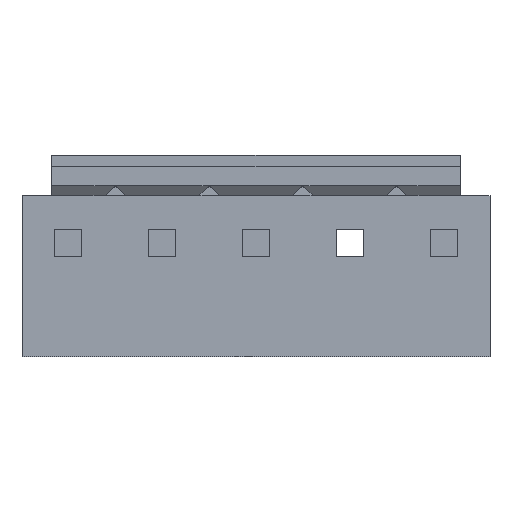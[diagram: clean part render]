
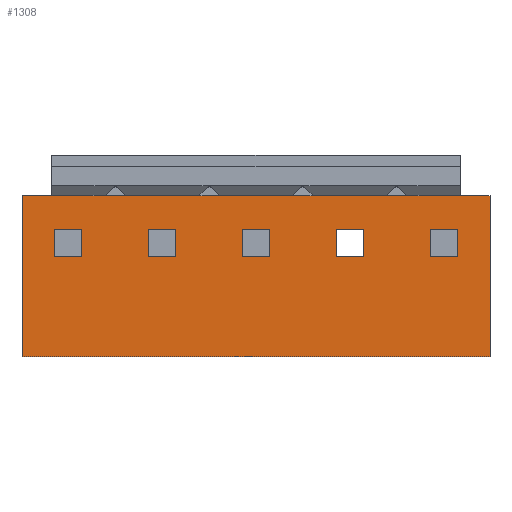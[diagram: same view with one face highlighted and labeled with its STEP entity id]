
A CAD part, top view. The second image highlights one B-rep face of the part: STEP entity #1308.
In plain terms, the highlighted planar face has unit normal (0, 0, 1).
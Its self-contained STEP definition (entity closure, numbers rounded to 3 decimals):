
#182=DIRECTION('',(1.,0.,0.));
#183=VECTOR('',#182,1.25);
#184=CARTESIAN_POINT('',(8.62,2.,0.));
#185=LINE('',#184,#183);
#186=DIRECTION('',(1.,0.,0.));
#187=VECTOR('',#186,1.25);
#188=CARTESIAN_POINT('',(-9.87,2.,0.));
#189=LINE('',#188,#187);
#190=DIRECTION('',(0.,1.,0.));
#191=VECTOR('',#190,1.14);
#192=CARTESIAN_POINT('',(-8.49,-0.57,0.));
#193=LINE('',#192,#191);
#194=DIRECTION('',(1.,0.,0.));
#195=VECTOR('',#194,1.14);
#196=CARTESIAN_POINT('',(-8.49,-0.57,0.));
#197=LINE('',#196,#195);
#198=DIRECTION('',(0.,1.,0.));
#199=VECTOR('',#198,1.14);
#200=CARTESIAN_POINT('',(-7.35,-0.57,0.));
#201=LINE('',#200,#199);
#202=DIRECTION('',(1.,0.,0.));
#203=VECTOR('',#202,1.14);
#204=CARTESIAN_POINT('',(-8.49,0.57,0.));
#205=LINE('',#204,#203);
#206=DIRECTION('',(0.,1.,0.));
#207=VECTOR('',#206,1.14);
#208=CARTESIAN_POINT('',(-4.53,-0.57,0.));
#209=LINE('',#208,#207);
#210=DIRECTION('',(1.,0.,0.));
#211=VECTOR('',#210,1.14);
#212=CARTESIAN_POINT('',(-4.53,-0.57,0.));
#213=LINE('',#212,#211);
#214=DIRECTION('',(0.,1.,0.));
#215=VECTOR('',#214,1.14);
#216=CARTESIAN_POINT('',(-3.39,-0.57,0.));
#217=LINE('',#216,#215);
#218=DIRECTION('',(1.,0.,0.));
#219=VECTOR('',#218,1.14);
#220=CARTESIAN_POINT('',(-4.53,0.57,0.));
#221=LINE('',#220,#219);
#222=DIRECTION('',(0.,1.,0.));
#223=VECTOR('',#222,1.14);
#224=CARTESIAN_POINT('',(-0.57,-0.57,0.));
#225=LINE('',#224,#223);
#226=DIRECTION('',(1.,0.,0.));
#227=VECTOR('',#226,1.14);
#228=CARTESIAN_POINT('',(-0.57,-0.57,0.));
#229=LINE('',#228,#227);
#230=DIRECTION('',(0.,1.,0.));
#231=VECTOR('',#230,1.14);
#232=CARTESIAN_POINT('',(0.57,-0.57,0.));
#233=LINE('',#232,#231);
#234=DIRECTION('',(1.,0.,0.));
#235=VECTOR('',#234,1.14);
#236=CARTESIAN_POINT('',(-0.57,0.57,0.));
#237=LINE('',#236,#235);
#238=DIRECTION('',(0.,1.,0.));
#239=VECTOR('',#238,1.14);
#240=CARTESIAN_POINT('',(7.35,-0.57,0.));
#241=LINE('',#240,#239);
#242=DIRECTION('',(1.,0.,0.));
#243=VECTOR('',#242,1.14);
#244=CARTESIAN_POINT('',(7.35,-0.57,0.));
#245=LINE('',#244,#243);
#246=DIRECTION('',(0.,1.,0.));
#247=VECTOR('',#246,1.14);
#248=CARTESIAN_POINT('',(8.49,-0.57,0.));
#249=LINE('',#248,#247);
#250=DIRECTION('',(1.,0.,0.));
#251=VECTOR('',#250,1.14);
#252=CARTESIAN_POINT('',(7.35,0.57,0.));
#253=LINE('',#252,#251);
#254=DIRECTION('',(1.,0.,0.));
#255=VECTOR('',#254,1.14);
#256=CARTESIAN_POINT('',(3.39,-0.57,0.));
#257=LINE('',#256,#255);
#258=DIRECTION('',(0.,1.,0.));
#259=VECTOR('',#258,1.14);
#260=CARTESIAN_POINT('',(4.53,-0.57,0.));
#261=LINE('',#260,#259);
#262=DIRECTION('',(1.,0.,0.));
#263=VECTOR('',#262,1.14);
#264=CARTESIAN_POINT('',(3.39,0.57,0.));
#265=LINE('',#264,#263);
#266=DIRECTION('',(0.,1.,0.));
#267=VECTOR('',#266,1.14);
#268=CARTESIAN_POINT('',(3.39,-0.57,0.));
#269=LINE('',#268,#267);
#270=DIRECTION('',(1.,0.,0.));
#271=VECTOR('',#270,17.24);
#272=CARTESIAN_POINT('',(-8.62,2.,0.));
#273=LINE('',#272,#271);
#598=DIRECTION('',(0.,1.,0.));
#599=VECTOR('',#598,6.8);
#600=CARTESIAN_POINT('',(-9.87,-4.8,0.));
#601=LINE('',#600,#599);
#618=DIRECTION('',(1.,0.,0.));
#619=VECTOR('',#618,19.74);
#620=CARTESIAN_POINT('',(-9.87,-4.8,0.));
#621=LINE('',#620,#619);
#642=DIRECTION('',(0.,1.,0.));
#643=VECTOR('',#642,6.8);
#644=CARTESIAN_POINT('',(9.87,-4.8,0.));
#645=LINE('',#644,#643);
#958=CARTESIAN_POINT('',(9.87,2.,0.));
#960=VERTEX_POINT('',#958);
#962=CARTESIAN_POINT('',(9.87,-4.8,0.));
#963=VERTEX_POINT('',#962);
#970=CARTESIAN_POINT('',(-9.87,2.,0.));
#972=VERTEX_POINT('',#970);
#974=CARTESIAN_POINT('',(-9.87,-4.8,0.));
#975=VERTEX_POINT('',#974);
#983=CARTESIAN_POINT('',(-8.62,2.,0.));
#985=VERTEX_POINT('',#983);
#987=CARTESIAN_POINT('',(8.62,2.,0.));
#989=VERTEX_POINT('',#987);
#1006=CARTESIAN_POINT('',(-8.49,-0.57,0.));
#1007=CARTESIAN_POINT('',(-8.49,0.57,0.));
#1008=VERTEX_POINT('',#1006);
#1009=VERTEX_POINT('',#1007);
#1010=CARTESIAN_POINT('',(-7.35,-0.57,0.));
#1011=CARTESIAN_POINT('',(-7.35,0.57,0.));
#1012=VERTEX_POINT('',#1010);
#1013=VERTEX_POINT('',#1011);
#1038=CARTESIAN_POINT('',(-4.53,-0.57,0.));
#1039=CARTESIAN_POINT('',(-4.53,0.57,0.));
#1040=VERTEX_POINT('',#1038);
#1041=VERTEX_POINT('',#1039);
#1042=CARTESIAN_POINT('',(-3.39,-0.57,0.));
#1043=CARTESIAN_POINT('',(-3.39,0.57,0.));
#1044=VERTEX_POINT('',#1042);
#1045=VERTEX_POINT('',#1043);
#1070=CARTESIAN_POINT('',(-0.57,-0.57,0.));
#1071=CARTESIAN_POINT('',(-0.57,0.57,0.));
#1072=VERTEX_POINT('',#1070);
#1073=VERTEX_POINT('',#1071);
#1074=CARTESIAN_POINT('',(0.57,-0.57,0.));
#1075=CARTESIAN_POINT('',(0.57,0.57,0.));
#1076=VERTEX_POINT('',#1074);
#1077=VERTEX_POINT('',#1075);
#1110=CARTESIAN_POINT('',(3.39,-0.57,0.));
#1111=CARTESIAN_POINT('',(4.53,-0.57,0.));
#1112=VERTEX_POINT('',#1110);
#1113=VERTEX_POINT('',#1111);
#1114=CARTESIAN_POINT('',(3.39,0.57,0.));
#1115=CARTESIAN_POINT('',(4.53,0.57,0.));
#1116=VERTEX_POINT('',#1114);
#1117=VERTEX_POINT('',#1115);
#1166=CARTESIAN_POINT('',(7.35,-0.57,0.));
#1167=CARTESIAN_POINT('',(7.35,0.57,0.));
#1168=VERTEX_POINT('',#1166);
#1169=VERTEX_POINT('',#1167);
#1170=CARTESIAN_POINT('',(8.49,-0.57,0.));
#1171=CARTESIAN_POINT('',(8.49,0.57,0.));
#1172=VERTEX_POINT('',#1170);
#1173=VERTEX_POINT('',#1171);
#1241=CARTESIAN_POINT('',(9.87,2.,0.));
#1242=DIRECTION('',(0.,0.,1.));
#1243=DIRECTION('',(0.,-1.,0.));
#1244=AXIS2_PLACEMENT_3D('',#1241,#1242,#1243);
#1245=PLANE('',#1244);
#1247=ORIENTED_EDGE('',*,*,#1246,.T.);
#1248=ORIENTED_EDGE('',*,*,#1236,.T.);
#1250=ORIENTED_EDGE('',*,*,#1249,.F.);
#1252=ORIENTED_EDGE('',*,*,#1251,.F.);
#1254=ORIENTED_EDGE('',*,*,#1253,.T.);
#1255=ORIENTED_EDGE('',*,*,#1216,.T.);
#1256=EDGE_LOOP('',(#1247,#1248,#1250,#1252,#1254,#1255));
#1257=FACE_OUTER_BOUND('',#1256,.F.);
#1259=ORIENTED_EDGE('',*,*,#1258,.F.);
#1261=ORIENTED_EDGE('',*,*,#1260,.T.);
#1263=ORIENTED_EDGE('',*,*,#1262,.T.);
#1265=ORIENTED_EDGE('',*,*,#1264,.F.);
#1266=EDGE_LOOP('',(#1259,#1261,#1263,#1265));
#1267=FACE_BOUND('',#1266,.F.);
#1269=ORIENTED_EDGE('',*,*,#1268,.F.);
#1271=ORIENTED_EDGE('',*,*,#1270,.T.);
#1273=ORIENTED_EDGE('',*,*,#1272,.T.);
#1275=ORIENTED_EDGE('',*,*,#1274,.F.);
#1276=EDGE_LOOP('',(#1269,#1271,#1273,#1275));
#1277=FACE_BOUND('',#1276,.F.);
#1279=ORIENTED_EDGE('',*,*,#1278,.F.);
#1281=ORIENTED_EDGE('',*,*,#1280,.T.);
#1283=ORIENTED_EDGE('',*,*,#1282,.T.);
#1285=ORIENTED_EDGE('',*,*,#1284,.F.);
#1286=EDGE_LOOP('',(#1279,#1281,#1283,#1285));
#1287=FACE_BOUND('',#1286,.F.);
#1289=ORIENTED_EDGE('',*,*,#1288,.F.);
#1291=ORIENTED_EDGE('',*,*,#1290,.T.);
#1293=ORIENTED_EDGE('',*,*,#1292,.T.);
#1295=ORIENTED_EDGE('',*,*,#1294,.F.);
#1296=EDGE_LOOP('',(#1289,#1291,#1293,#1295));
#1297=FACE_BOUND('',#1296,.F.);
#1299=ORIENTED_EDGE('',*,*,#1298,.T.);
#1301=ORIENTED_EDGE('',*,*,#1300,.T.);
#1303=ORIENTED_EDGE('',*,*,#1302,.F.);
#1305=ORIENTED_EDGE('',*,*,#1304,.F.);
#1306=EDGE_LOOP('',(#1299,#1301,#1303,#1305));
#1307=FACE_BOUND('',#1306,.F.);
#1216=EDGE_CURVE('',#972,#985,#189,.T.);
#1236=EDGE_CURVE('',#989,#960,#185,.T.);
#1246=EDGE_CURVE('',#985,#989,#273,.T.);
#1249=EDGE_CURVE('',#963,#960,#645,.T.);
#1251=EDGE_CURVE('',#975,#963,#621,.T.);
#1253=EDGE_CURVE('',#975,#972,#601,.T.);
#1258=EDGE_CURVE('',#1008,#1009,#193,.T.);
#1260=EDGE_CURVE('',#1008,#1012,#197,.T.);
#1262=EDGE_CURVE('',#1012,#1013,#201,.T.);
#1264=EDGE_CURVE('',#1009,#1013,#205,.T.);
#1268=EDGE_CURVE('',#1040,#1041,#209,.T.);
#1270=EDGE_CURVE('',#1040,#1044,#213,.T.);
#1272=EDGE_CURVE('',#1044,#1045,#217,.T.);
#1274=EDGE_CURVE('',#1041,#1045,#221,.T.);
#1278=EDGE_CURVE('',#1072,#1073,#225,.T.);
#1280=EDGE_CURVE('',#1072,#1076,#229,.T.);
#1282=EDGE_CURVE('',#1076,#1077,#233,.T.);
#1284=EDGE_CURVE('',#1073,#1077,#237,.T.);
#1288=EDGE_CURVE('',#1168,#1169,#241,.T.);
#1290=EDGE_CURVE('',#1168,#1172,#245,.T.);
#1292=EDGE_CURVE('',#1172,#1173,#249,.T.);
#1294=EDGE_CURVE('',#1169,#1173,#253,.T.);
#1298=EDGE_CURVE('',#1112,#1113,#257,.T.);
#1300=EDGE_CURVE('',#1113,#1117,#261,.T.);
#1302=EDGE_CURVE('',#1116,#1117,#265,.T.);
#1304=EDGE_CURVE('',#1112,#1116,#269,.T.);
#1308=ADVANCED_FACE('',(#1257,#1267,#1277,#1287,#1297,#1307),#1245,.T.);
